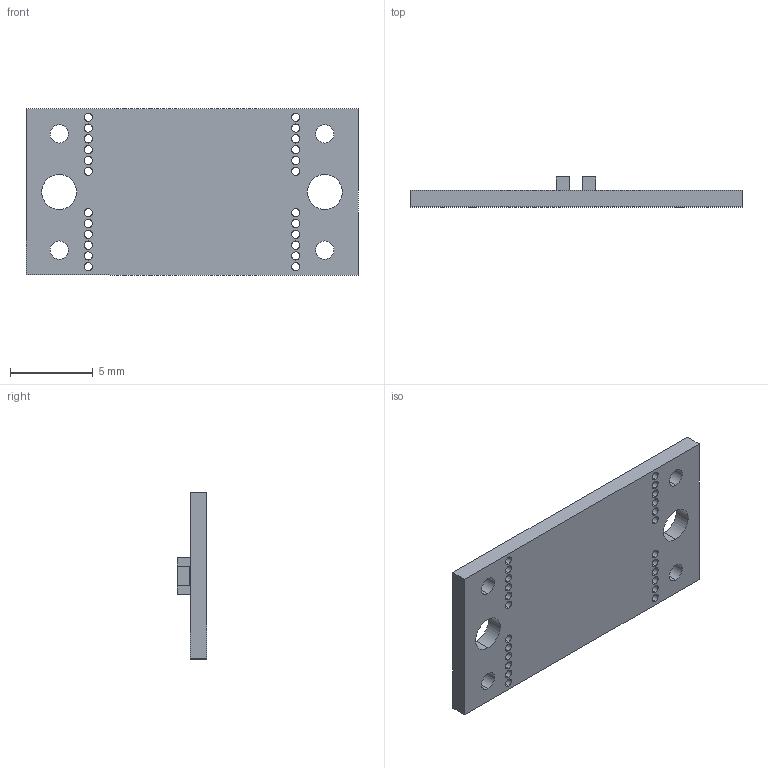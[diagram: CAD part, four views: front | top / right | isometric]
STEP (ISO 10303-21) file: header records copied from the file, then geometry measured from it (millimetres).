
FILE_DESCRIPTION (( 'STEP AP214' ), '1' );
FILE_NAME ('033-2019_0001_(SingleLobeTarget_3D).STEP', '2025-06-02T09:54:11', ( '' ), ( '' ), 'SwSTEP 2.0', 'SolidWorks 2024', '' );
FILE_SCHEMA (( 'AUTOMOTIVE_DESIGN' ));
Length unit declared in the file: millimetre
Products named in the file (3): 013-1042_0001_Cmodel; 010-2008_0001_(SingleLobeLinearBTarget_PCB); 033-2019_0001_(SingleLobeTarget_3D)
Assembly tree (3 placements, depth 2):
  033-2019_0001_(SingleLobeTarget_3D)
    010-2008_0001_(SingleLobeLinearBTarget_PCB)
    013-1042_0001_Cmodel  x2
Bounding box: 20 x 1.8 x 10 mm (x, y, z)
Volume: 187.2 mm3; surface area: 510.3 mm2
Topology: 3 solids, 3 shells, 98 faces, 264 edges, 176 vertices
Faces by surface type: cylinder 60, plane 38
Entity records: 3766 total; most frequent: DIRECTION 524, CARTESIAN_POINT 468, ORIENTED_EDGE 456, EDGE_CURVE 228, AXIS2_PLACEMENT_3D 208, VERTEX_POINT 152, EDGE_LOOP 144, CIRCLE 120
